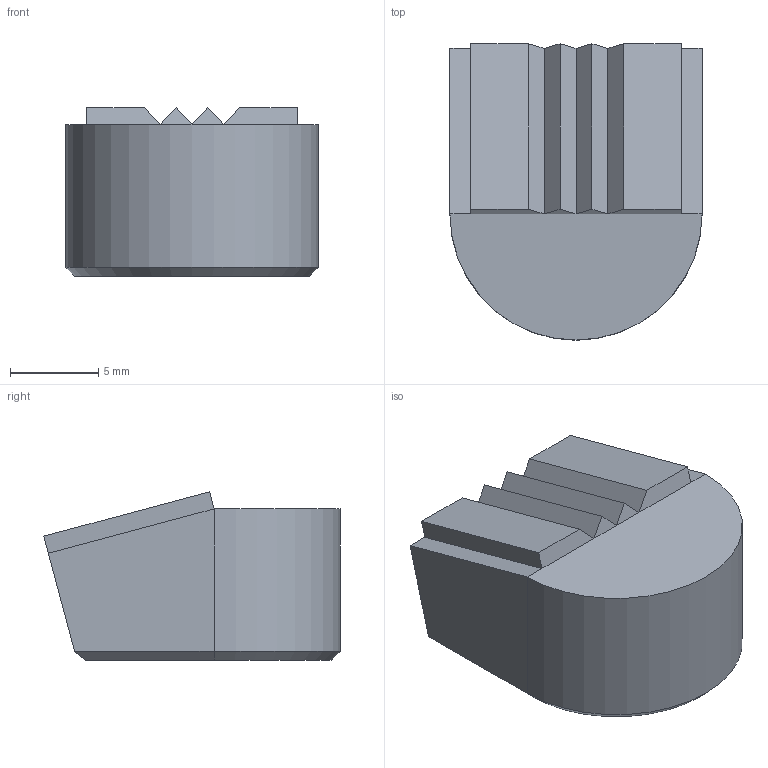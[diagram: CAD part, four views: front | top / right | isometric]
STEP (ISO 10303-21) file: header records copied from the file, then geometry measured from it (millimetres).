
FILE_DESCRIPTION((''),'2;1');
FILE_NAME('3535W003.stp','2001-03-30T14:17:24',(''),(''),'AutoCAD STEP 2000i','AutoCAD 2000i',', , ');
FILE_SCHEMA(('CONFIG_CONTROL_DESIGN'));
Length unit declared in the file: millimetre
Products named in the file (2): 3535D-MDTA; 3535D-MDT
Assembly tree (1 placements, depth 2):
  3535D-MDTA
    3535D-MDT
Bounding box: 14.28 x 16.77 x 9.53 mm (x, y, z)
Volume: 1538.2 mm3; surface area: 972.4 mm2
Topology: 1 solids, 1 shells, 30 faces, 70 edges, 41 vertices
Faces by surface type: plane 24, cylinder 3, cone 3
Entity records: 924 total; most frequent: CARTESIAN_POINT 141, DIRECTION 139, ORIENTED_EDGE 136, EDGE_CURVE 68, VECTOR 61, LINE 61, VERTEX_POINT 41, AXIS2_PLACEMENT_3D 39
